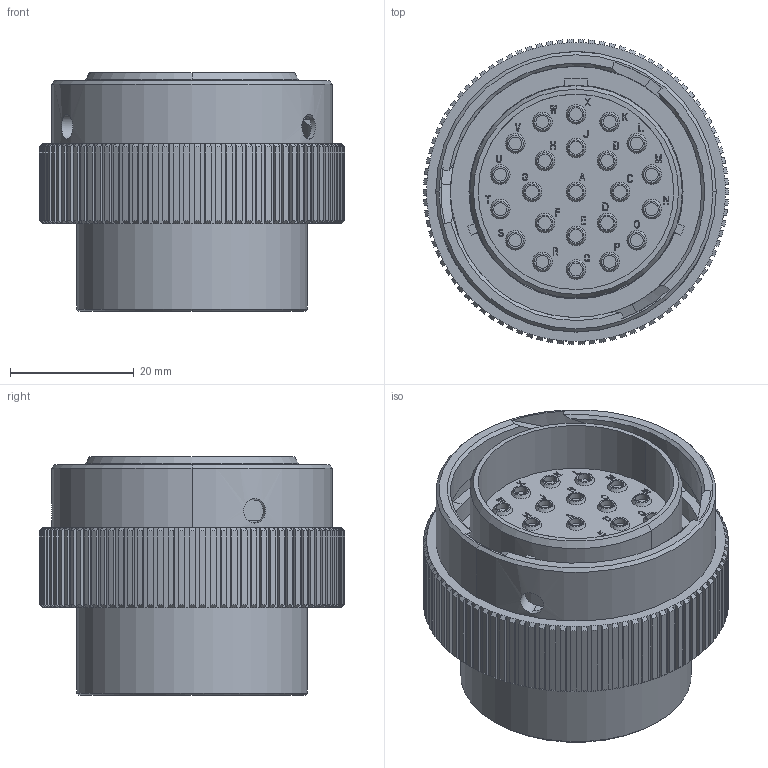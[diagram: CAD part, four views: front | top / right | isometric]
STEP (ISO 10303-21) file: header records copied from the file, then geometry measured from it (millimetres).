
FILE_DESCRIPTION((''),'2;1');
FILE_NAME('C-HD36-24-23PN','2013-01-22T',('workeradm'),('Tyco Electronics Ltd.'),'PRO/ENGINEER BY PARAMETRIC TECHNOLOGY CORPORATION, 2010430','PRO/ENGINEER BY PARAMETRIC TECHNOLOGY CORPORATION, 2010430','');
FILE_SCHEMA(('AUTOMOTIVE_DESIGN { 1 0 10303 214 1 1 1 1 }'));
Length unit declared in the file: millimetre
Products named in the file (1): C-HD36-24-23PN
Bounding box: 49.33 x 49.32 x 38.61 mm (x, y, z)
Volume: 43353.7 mm3; surface area: 16150.4 mm2
Topology: 1 solids, 1 shells, 1480 faces, 3669 edges, 2323 vertices
Faces by surface type: plane 863, cylinder 351, cone 239, bspline 27
Entity records: 55781 total; most frequent: CARTESIAN_POINT 9100, ORIENTED_EDGE 7338, DIRECTION 7296, PRESENTATION_STYLE_ASSIGNMENT 3670, STYLED_ITEM 3670, CURVE_STYLE 3669, EDGE_CURVE 3669, AXIS2_PLACEMENT_3D 2441
